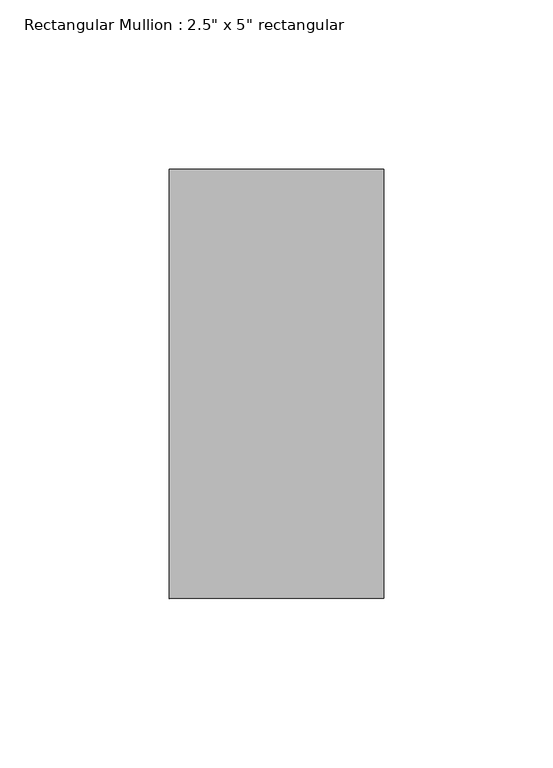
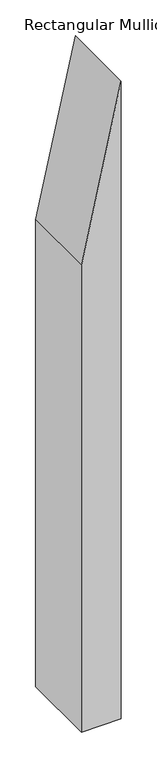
"""IFC4 building model written with IfcOpenShell, lengths in millimetres: member geometry."""

from ifc_helpers import new_model, si_unit, frame, origin, place, context, project, spatial, polyline, outline, extrude, source, transform, mapped, element, save


def member_047e79c2(model_context):
    return source(origin(), model_context, "Body", "SweptSolid", [
        extrude(outline(polyline([(-151.5949005, 31.75), (-441.0163432, -31.75), (-1232.9628593, -31.75), (-1232.9628593, 31.75), (-151.5949005, 31.75)])), frame((0.0, -63.5, 0.0), z_axis=(0.0, 1.0, 0.0), x_axis=(0.0, 0.0, 1.0)), (0.0, 0.0, 1.0), 127.0),
    ])


if __name__ == "__main__":
    model = new_model("IFC4")
    model_context = context("Model", 3, world=origin())
    ifc_project = project(units=[si_unit("LENGTHUNIT", "METRE", prefix="MILLI")], contexts=[model_context])
    site = spatial("IfcSite", under=ifc_project)
    building = spatial("IfcBuilding", under=site)
    placement = place(None, origin())
    member_shape = member_047e79c2(model_context)
    element("IfcMember", 1, ObjectType="Rectangular Mullion : 2.5\" x 5\" rectangular", at=placement, inside=building, context=model_context, shape_type="MappedRepresentation", body=[
        mapped(member_shape, transform((0.0, 0.0, 0.0), x_axis=(1.0, 0.0, 0.0), y_axis=(0.0, 1.0, 0.0), z_axis=(0.0, 0.0, 1.0))),
    ])
    save(model, "model.ifc")
